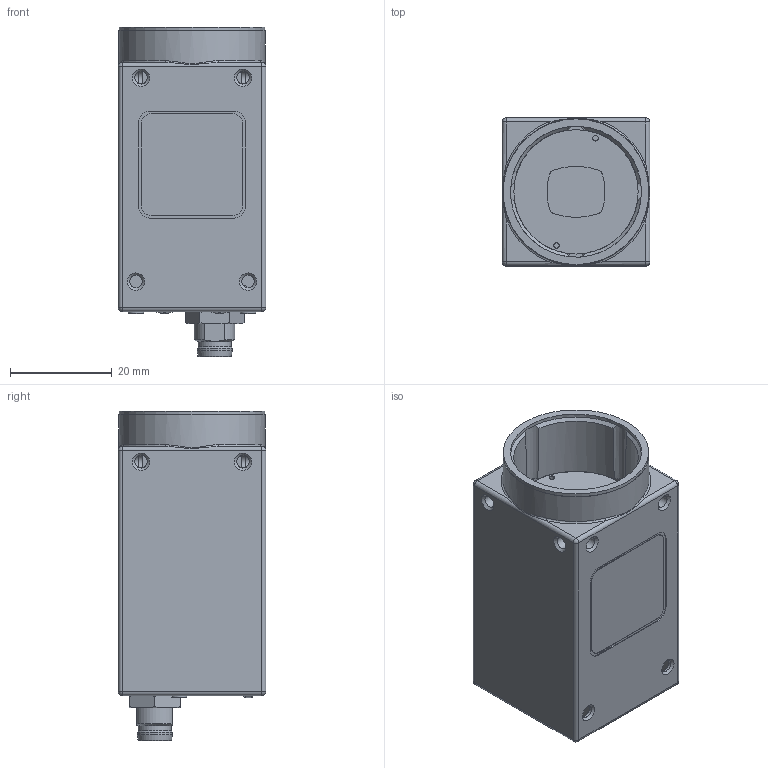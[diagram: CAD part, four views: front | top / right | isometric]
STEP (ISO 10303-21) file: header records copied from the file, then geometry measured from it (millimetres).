
FILE_DESCRIPTION( ( 'Unknown' ), '1' );
FILE_NAME( 'Z:/entw/Konstruktion/Mcad/Solid Edge/11160000/11164974_VCXG-13C.stp', '14.10.2014', ( 'Unknown' ), ( 'Unknown' ), 'PSStep 15.0.49', 'Unknown', ' ' );
FILE_SCHEMA( ( 'AUTOMOTIVE_DESIGN { 1 0 10303 214 1 1 1 1 }' ) );
Length unit declared in the file: millimetre
Products named in the file (4): 11080147
Bounding box: 29 x 29 x 64.75 mm (x, y, z)
Volume: 13540 mm3; surface area: 23152 mm2
Topology: 4 solids, 9 shells, 2565 faces, 7215 edges, 4657 vertices
Faces by surface type: plane 1649, cylinder 703, cone 72, torus 53, sphere 48, bspline 36, extrusion 4
Full cylindrical faces by diameter (mm): 0.217 x1, 0.6 x16, 1.1 x2, 1.4 x4, 1.567 x2, 1.6 x2, 1.9 x4, 2.459 x10, 3 x4, 6.5 x1, 6.9 x1, 8.4 x1, 9 x1, 9.4 x1, 19 x1, 24.4 x1, 25.7 x1, 26 x1, 28.6 x1, 28.7 x1
Entity records: 114624 total; most frequent: CARTESIAN_POINT 18866, ORIENTED_EDGE 14012, DIRECTION 13242, EDGE_CURVE 7006, VECTOR 5004, LINE 5000, VERTEX_POINT 4586, PRESENTATION_STYLE_ASSIGNMENT 4563
